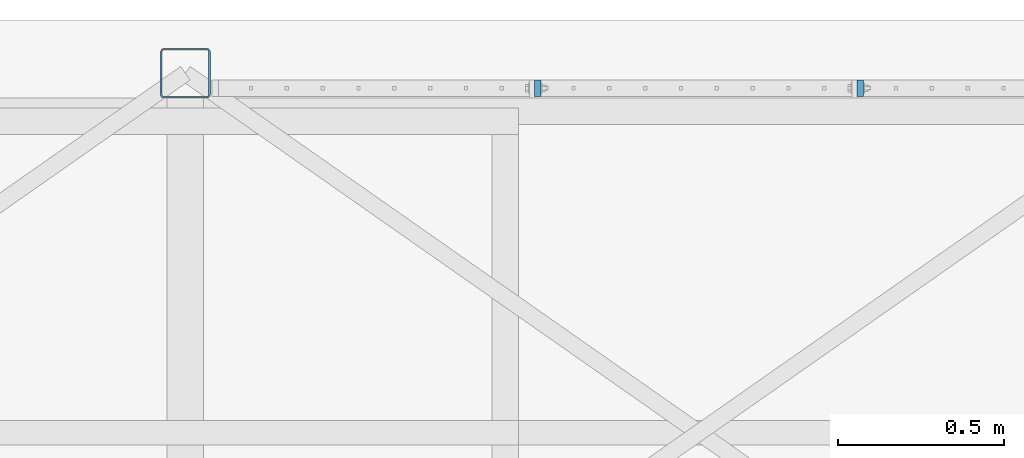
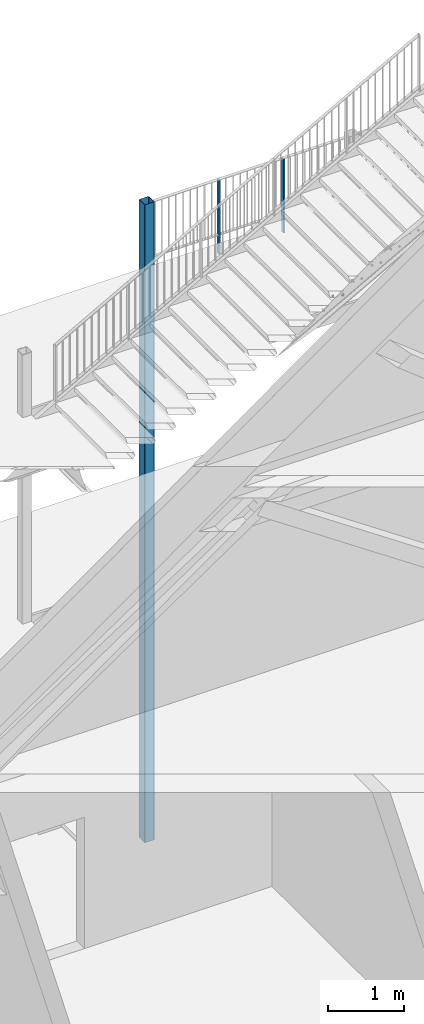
# One storey, part 11 of 78: 3 columns, 2 elements without a shape of their own.
"""IFC2X3 building model written with IfcOpenShell, lengths in millimetres."""

from ifc_helpers import new_model, si_unit, frame, origin_with_axes, origin_2d_with_axis, place, context, subcontext, project, spatial, rectangle, hollow_rectangle, extrude, clip, halfspace, material, type_object, element, aggregate, save


model = new_model("IFC2X3")

# Units and contexts
model_context = context("Model", 3, precision=1e-05, world=origin_with_axes())
body_context = subcontext(model_context, "Body", "Model", "MODEL_VIEW")
ifc_project = project(units=[si_unit("LENGTHUNIT", "METRE", prefix="MILLI"), si_unit("AREAUNIT", "SQUARE_METRE"), si_unit("VOLUMEUNIT", "CUBIC_METRE"), si_unit("MASSUNIT", "GRAM", prefix="KILO"), si_unit("TIMEUNIT", "SECOND"), si_unit("PLANEANGLEUNIT", "RADIAN"), si_unit("SOLIDANGLEUNIT", "STERADIAN"), si_unit("THERMODYNAMICTEMPERATUREUNIT", "DEGREE_CELSIUS"), si_unit("LUMINOUSINTENSITYUNIT", "LUMEN")], contexts=[model_context])

# Site, building, storey
site_placement = place(None, origin_with_axes())
site = spatial("IfcSite", under=ifc_project, at=site_placement, Name="Site", CompositionType="ELEMENT")
building_placement = place(site_placement, origin_with_axes())
building = spatial("IfcBuilding", under=site, at=building_placement, Name="Undefined", CompositionType="ELEMENT")
storey_placement = place(building_placement, origin_with_axes())
storey = spatial("IfcBuildingStorey", under=building, at=storey_placement, Name="Undefined", CompositionType="ELEMENT", Elevation=0.0)

# Assembly, columns
assembly_1_placement = place(storey_placement, origin_with_axes())
assembly_1 = element("IfcElementAssembly", 1, at=assembly_1_placement, inside=storey, Name="MAIN_COURANTE", AssemblyPlace="NOTDEFINED", PredefinedType="RIGID_FRAME")
ifc_material_1 = material(Name="STEEL/S235JR")
column_type_1 = type_object("IfcColumnType", Name="PL20*50", PredefinedType="NOTDEFINED")
column_1_placement = place(assembly_1_placement, frame((-538.096666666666, 32873.0, 156670.04), z_axis=(0.0, 0.0, 1.0), x_axis=(0.0, -1.0, 0.0)))
column_1 = element("IfcColumn", 2, at=column_1_placement, type_object=column_type_1, material=ifc_material_1, Name="MONTANT", ObjectType="PL20*50", context=body_context, shape_type="Clipping", body=[
    clip(clip(extrude(rectangle(XDim=20.0, YDim=50.0, at=origin_2d_with_axis()), frame((0.0, 0.0, 1030.0), z_axis=(0.0, 0.0, -1.0), x_axis=(0.0, 1.0, 0.0)), (0.0, 0.0, 1.0), 1190.0), halfspace(frame((1.96450855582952e-10, 0.0, 1020.0), z_axis=(0.0, 0.0, 1.0), x_axis=(-1.0, 0.0, 0.0)), False)), halfspace(frame((0.0, -1010.0, -160.0), z_axis=(0.0, 0.0, 1.0), x_axis=(-1.0, 0.0, 0.0)), True)),
])
column_2_placement = place(assembly_1_placement, frame((435.236666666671, 32873.0, 156670.04), z_axis=(0.0, 0.0, 1.0), x_axis=(0.0, -1.0, 0.0)))
column_2 = element("IfcColumn", 3, at=column_2_placement, type_object=column_type_1, material=ifc_material_1, Name="MONTANT", ObjectType="PL20*50", context=body_context, shape_type="Clipping", body=[
    clip(clip(extrude(rectangle(XDim=20.0, YDim=50.0, at=origin_2d_with_axis()), frame((0.0, 0.0, 1030.0), z_axis=(0.0, 0.0, -1.0), x_axis=(0.0, 1.0, 0.0)), (0.0, 0.0, 1.0), 1190.0), halfspace(frame((1.96450855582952e-10, 0.0, 1020.0), z_axis=(0.0, 0.0, 1.0), x_axis=(-1.0, 0.0, 0.0)), False)), halfspace(frame((0.0, -1010.0, -160.0), z_axis=(0.0, 0.0, 1.0), x_axis=(-1.0, 0.0, 0.0)), True)),
])
aggregate(assembly_1, [column_1, column_2])

# Assembly, column
assembly_2_placement = place(storey_placement, origin_with_axes())
assembly_2 = element("IfcElementAssembly", 4, at=assembly_2_placement, inside=storey, Name="POTEAU", AssemblyPlace="NOTDEFINED", PredefinedType="RIGID_FRAME")
ifc_material_2 = material(Name="STEEL/S275JR")
column_type_2 = type_object("IfcColumnType", Name="TUBE-C-150*150*5", PredefinedType="NOTDEFINED")
column_3_placement = place(assembly_2_placement, frame((-1601.43, 32918.0, 147500.04), z_axis=(0.0, 0.0, 1.0), x_axis=(0.0, 1.0, 0.0)))
column_3 = element("IfcColumn", 5, at=column_3_placement, type_object=column_type_2, material=ifc_material_2, Name="POTEAU", ObjectType="TUBE-C-150*150*5", context=body_context, shape_type="SweptSolid", body=[
    extrude(hollow_rectangle(XDim=150.0, YDim=150.0, WallThickness=5.0, InnerFilletRadius=5.0, OuterFilletRadius=10.0, at=origin_2d_with_axis()), frame((0.0, 0.0, 10200.0), z_axis=(0.0, 0.0, -1.0), x_axis=(0.0, 1.0, 0.0)), (0.0, 0.0, 1.0), 10200.0),
])
aggregate(assembly_2, [column_3])

save(model, "model.ifc")
